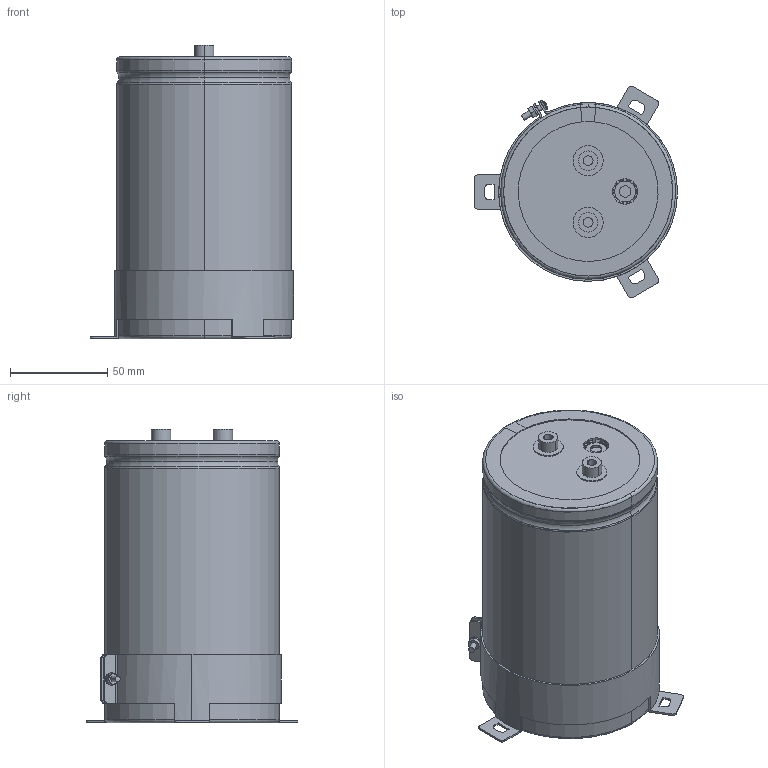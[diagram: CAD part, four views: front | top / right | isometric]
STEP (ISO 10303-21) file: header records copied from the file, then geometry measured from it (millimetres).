
FILE_DESCRIPTION(('STEP AP214'),'1');
FILE_NAME('90x145_Screw.stp','2022-03-14T08:57:45',(' '),(' '),'Spatial InterOp 3D',' ',' ');
FILE_SCHEMA(('AUTOMOTIVE_DESIGN { 1 0 10303 214 1 1 1 1 }'));
Length unit declared in the file: metre
Products named in the file (10): 90x145_Screw; Component1; Component2; Component3; Component4; Component5; Component6; Component7; Component8; Component9
Assembly tree (9 placements, depth 2):
  90x145_Screw
    Component1
    Component2
    Component3
    Component4
    Component5
    Component6
    Component7
    Component8
    Component9
Bounding box: 104.5 x 108.86 x 151 mm (x, y, z)
Volume: 925010.5 mm3; surface area: 162492 mm2
Topology: 9 solids, 9 shells, 352 faces, 873 edges, 551 vertices
Faces by surface type: plane 112, cylinder 110, torus 90, cone 38, sphere 2
Entity records: 11474 total; most frequent: DIRECTION 2126, CARTESIAN_POINT 1918, ORIENTED_EDGE 1746, AXIS2_PLACEMENT_3D 919, EDGE_CURVE 873, VERTEX_POINT 551, CIRCLE 511, EDGE_LOOP 380
